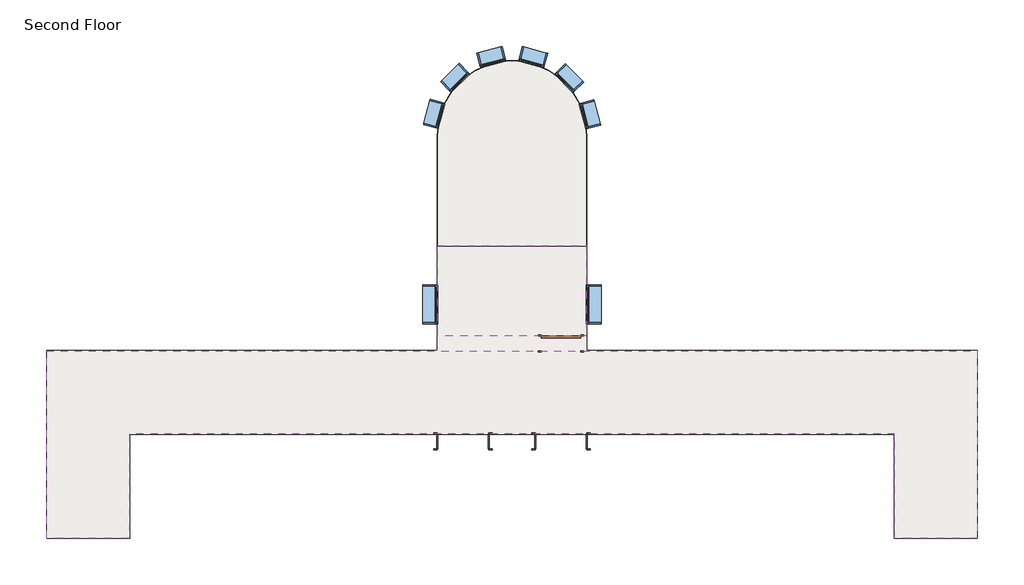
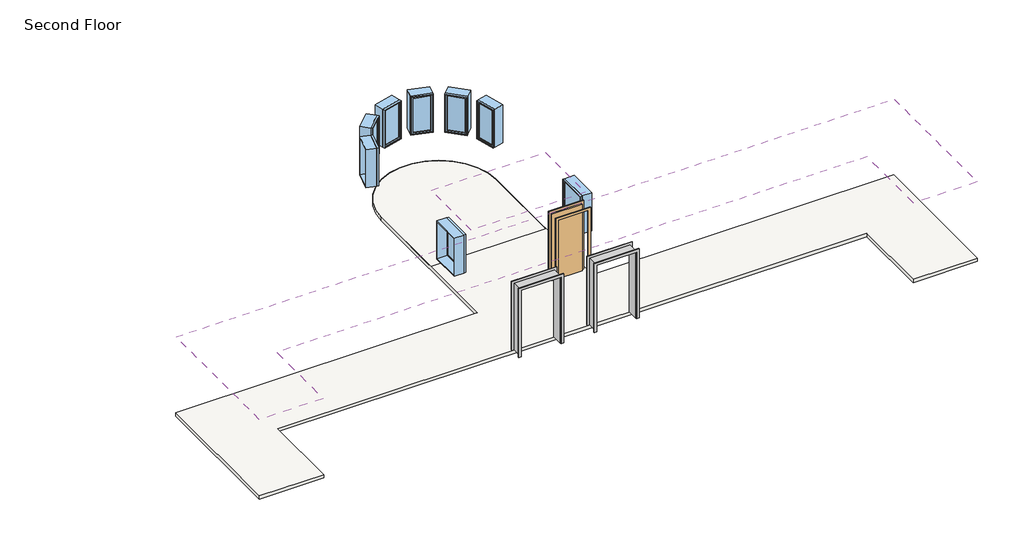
# One storey: 8 windows, 2 coverings, 2 proxies, 2 slabs, 1 door.
"""IFC4 building model written with IfcOpenShell, lengths in millimetres."""

import ifcopenshell
import ifcopenshell.guid

model = None  # the IFC model being written
_history = None  # IfcOwnerHistory: only IFC2X3 demands one
_inside = {}  # id of a spatial element -> (the spatial element, [elements in it])
_under = {}  # id of a project, library or spatial element -> (it, [spatial elements below it])
_declared = {}  # id of a project -> (the project, [libraries it declares])
_typed = {}  # id of a type object -> (the type object, [elements of that type])
_made_of = {}  # id of a material, layer set ... -> (it, [elements and type objects made of it])


def new_model(schema):
    """Start an empty IFC model of exactly this schema.

    Asked for "IFC4X3", IfcOpenShell would pick the latest addendum, in which some entities
    have other attributes; the version numbers below select the first issue.
    IFC2X3 requires an IfcOwnerHistory on every rooted entity: one is made here for all.
    """
    global model, _history
    if schema == "IFC4X3":
        model = ifcopenshell.file(schema_version=(4, 3, 0, 0))
    else:
        model = ifcopenshell.file(schema=schema)
    _inside.clear()
    _under.clear()
    _declared.clear()
    _typed.clear()
    _made_of.clear()
    _history = None
    if model.schema == "IFC2X3":
        org = make("IfcOrganization", Name="unknown")
        user = make(
            "IfcPersonAndOrganization",
            ThePerson=make("IfcPerson", FamilyName="unknown"),
            TheOrganization=org,
        )
        app = make(
            "IfcApplication",
            ApplicationDeveloper=org,
            Version="unknown",
            ApplicationFullName="unknown",
            ApplicationIdentifier="unknown",
        )
        _history = make(
            "IfcOwnerHistory",
            OwningUser=user,
            OwningApplication=app,
            ChangeAction="ADDED",
            CreationDate=0,
        )
    return model


def make(cls, **values):
    """One entity of the class cls with the attributes given. An attribute that is None is left unset."""
    return model.create_entity(
        cls, **{name: value for name, value in values.items() if value is not None}
    )


def rooted(cls, **values):
    """An entity with a GlobalId (a new one), such as an element, a storey or a relation."""
    return make(cls, GlobalId=ifcopenshell.guid.new(), OwnerHistory=_history, **values)


def si_unit(unit_type, name, prefix=None):
    """IfcSIUnit, for example si_unit("LENGTHUNIT", "METRE", prefix="MILLI")."""
    return make("IfcSIUnit", UnitType=unit_type, Prefix=prefix, Name=name)


def assignment(units):
    """IfcUnitAssignment: the units of a project."""
    return None if units is None else make("IfcUnitAssignment", Units=units)


def point(xyz):
    """IfcCartesianPoint."""
    return None if xyz is None else make("IfcCartesianPoint", Coordinates=xyz)


def direction(xyz):
    """IfcDirection."""
    return None if xyz is None else make("IfcDirection", DirectionRatios=xyz)


def frame(location, z_axis=None, x_axis=None):
    """IfcAxis2Placement3D, a coordinate frame: its origin and axes. An axis left out is left unset."""
    return make(
        "IfcAxis2Placement3D",
        Location=point(location),
        Axis=direction(z_axis),
        RefDirection=direction(x_axis),
    )


def frame_2d(location, x_axis=None):
    """IfcAxis2Placement2D, a coordinate frame in the plane: its origin and x axis."""
    return make(
        "IfcAxis2Placement2D", Location=point(location), RefDirection=direction(x_axis)
    )


def origin():
    """The frame at (0, 0, 0) with its axes left unset."""
    return frame((0.0, 0.0, 0.0))


def origin_with_axes():
    """The frame at (0, 0, 0) with the z axis (0, 0, 1) and the x axis (1, 0, 0) written out."""
    return frame((0.0, 0.0, 0.0), z_axis=(0.0, 0.0, 1.0), x_axis=(1.0, 0.0, 0.0))


def place(relative_to, where):
    """IfcLocalPlacement: puts the frame where relative to a parent placement (None: the world)."""
    return make(
        "IfcLocalPlacement", PlacementRelTo=relative_to, RelativePlacement=where
    )


def context(
    kind, dimensions, precision=None, world=None, true_north=None, identifier=None
):
    """IfcGeometricRepresentationContext, for example the 3D "Model" context."""
    return make(
        "IfcGeometricRepresentationContext",
        ContextIdentifier=identifier,
        ContextType=kind,
        CoordinateSpaceDimension=dimensions,
        Precision=precision,
        WorldCoordinateSystem=world,
        TrueNorth=true_north,
    )


def project(units=None, contexts=None):
    """IfcProject with its units and contexts."""
    return rooted(
        "IfcProject",
        Name="project",
        RepresentationContexts=contexts,
        UnitsInContext=assignment(units),
    )


def spatial(cls, under=None, at=None, **own):
    """A site, building, storey or space (cls), placed at a placement, below another one or the project."""
    s = rooted(cls, ObjectPlacement=at, **own)
    if under is not None:
        _under.setdefault(under.id(), (under, []))[1].append(s)
    return s


def polyline(points):
    """IfcPolyline through the points."""
    return make("IfcPolyline", Points=[point(p) for p in points])


def circle_curve(where, radius):
    """IfcCircle in the frame where."""
    return make("IfcCircle", Position=where, Radius=radius)


def trimmed(basis, trim1, trim2, sense, master):
    """IfcTrimmedCurve: the piece of a basis curve between two trims."""
    return make(
        "IfcTrimmedCurve",
        BasisCurve=basis,
        Trim1=trim1,
        Trim2=trim2,
        SenseAgreement=sense,
        MasterRepresentation=master,
    )


def segment(curve, same_sense, transition):
    """IfcCompositeCurveSegment."""
    return make(
        "IfcCompositeCurveSegment",
        Transition=transition,
        SameSense=same_sense,
        ParentCurve=curve,
    )


def composite_curve(segments, self_intersect=None):
    """IfcCompositeCurve: segments joined end to end."""
    return make("IfcCompositeCurve", Segments=segments, SelfIntersect=self_intersect)


def outline(outer, holes=None, kind="AREA"):
    """IfcArbitraryClosedProfileDef: a profile drawn as a closed curve; with holes, ...WithVoids."""
    if holes is None:
        return make("IfcArbitraryClosedProfileDef", ProfileType=kind, OuterCurve=outer)
    return make(
        "IfcArbitraryProfileDefWithVoids",
        ProfileType=kind,
        OuterCurve=outer,
        InnerCurves=holes,
    )


def extrude(swept, where, along, depth):
    """IfcExtrudedAreaSolid: the profile swept, set in the frame where, extruded along a direction by depth."""
    return make(
        "IfcExtrudedAreaSolid",
        SweptArea=swept,
        Position=where,
        ExtrudedDirection=direction(along),
        Depth=depth,
    )


def faces_of(points, faces, orient=None, outer=None):
    """IfcFace entities. A face is a list of loops; a loop is a list of indices into points, from 0.

    orient and outer hold one flag for each loop. By default every Orientation is true, the
    first loop of a face is its IfcFaceOuterBound and the others are IfcFaceBound.
    """
    made = []
    for i, loops in enumerate(faces):
        bounds = []
        for j, loop in enumerate(loops):
            is_outer = j == 0 if outer is None else outer[i][j]
            bounds.append(
                make(
                    "IfcFaceOuterBound" if is_outer else "IfcFaceBound",
                    Bound=make("IfcPolyLoop", Polygon=[points[k] for k in loop]),
                    Orientation=True if orient is None else orient[i][j],
                )
            )
        made.append(make("IfcFace", Bounds=bounds))
    return made


def faceted_brep(points, faces, orient=None, outer=None, voids=None):
    """IfcFacetedBrep: a solid bounded by flat faces; with voids (closed shells), ...WithVoids."""
    shared = [point(p) for p in points]
    hull = make("IfcClosedShell", CfsFaces=faces_of(shared, faces, orient, outer))
    if voids is None:
        return make("IfcFacetedBrep", Outer=hull)
    return make(
        "IfcFacetedBrepWithVoids",
        Outer=hull,
        Voids=[
            make(cls, CfsFaces=faces_of(shared, fs, o, b)) for cls, fs, o, b in voids
        ],
    )


def shape(context_of_items, identifier, shape_type, items):
    """IfcShapeRepresentation: the items that make up one representation, for example the "Body"."""
    return make(
        "IfcShapeRepresentation",
        ContextOfItems=context_of_items,
        RepresentationIdentifier=identifier,
        RepresentationType=shape_type,
        Items=items,
    )


def source(mapping_origin, context_of_items, identifier, shape_type, items):
    """IfcRepresentationMap: a shape defined once, which mapped items show again and again."""
    return make(
        "IfcRepresentationMap",
        MappingOrigin=mapping_origin,
        MappedRepresentation=shape(context_of_items, identifier, shape_type, items),
    )


def transform(
    local_origin,
    x_axis=None,
    y_axis=None,
    z_axis=None,
    scale=None,
    scale2=None,
    scale3=None,
    uniform=True,
):
    """IfcCartesianTransformationOperator3D, or its non-uniform kind. x_axis, y_axis, z_axis: its Axis1, 2, 3."""
    if uniform:
        return make(
            "IfcCartesianTransformationOperator3D",
            Axis1=direction(x_axis),
            Axis2=direction(y_axis),
            LocalOrigin=point(local_origin),
            Scale=scale,
            Axis3=direction(z_axis),
        )
    return make(
        "IfcCartesianTransformationOperator3DnonUniform",
        Axis1=direction(x_axis),
        Axis2=direction(y_axis),
        LocalOrigin=point(local_origin),
        Scale=scale,
        Axis3=direction(z_axis),
        Scale2=scale2,
        Scale3=scale3,
    )


def mapped(mapping_source, mapping_target):
    """IfcMappedItem: shows the shape of a source again, moved by a transform."""
    return make(
        "IfcMappedItem", MappingSource=mapping_source, MappingTarget=mapping_target
    )


def made_of(thing, what):
    """Note that an element or type object is made of a material, layer set ...; save() writes the relation."""
    if what is not None:
        _made_of.setdefault(what.id(), (what, []))[1].append(thing)
    return thing


def element(
    cls,
    number,
    at=None,
    inside=None,
    cuts=None,
    type_object=None,
    material=None,
    context=None,
    identifier="Body",
    shape_type=None,
    held_by="IfcProductDefinitionShape",
    body=None,
    shapes=None,
    **own,
):
    """One element of the class cls, such as IfcWall. Its Tag is "e" and its number.

    at: its placement. inside: the storey or other place that contains it. cuts: it is an
    opening in that element (IfcRelVoidsElement). A single representation is given by context,
    identifier, shape_type and body (its items); several are given by shapes. held_by: the class
    of the entity that holds the representations. save() writes the other relations.
    """
    e = rooted(cls, Tag="e%d" % number, ObjectPlacement=at, **own)
    if body is not None:
        shapes = [shape(context, identifier, shape_type, body)]
    if shapes is not None:
        e.Representation = make(held_by, Representations=shapes)
    if inside is not None:
        _inside.setdefault(inside.id(), (inside, []))[1].append(e)
    if cuts is not None:
        rooted(
            "IfcRelVoidsElement", RelatingBuildingElement=cuts, RelatedOpeningElement=e
        )
    if type_object is not None:
        _typed.setdefault(type_object.id(), (type_object, []))[1].append(e)
    return made_of(e, material)


def aggregate(whole, parts):
    """IfcRelAggregates: a whole, such as a stair, and the parts it consists of."""
    return rooted("IfcRelAggregates", RelatingObject=whole, RelatedObjects=parts)


def save(model, path):
    """Write the relations noted so far, then the file.

    IfcRelAggregates (storeys below a building ...), IfcRelContainedInSpatialStructure (elements
    in a storey), IfcRelDefinesByType, IfcRelAssociatesMaterial and IfcRelDeclares: one each for
    every whole, place, type object, material and project.
    """
    for whole, parts in _under.values():
        aggregate(whole, parts)
    for where, things in _inside.values():
        rooted(
            "IfcRelContainedInSpatialStructure",
            RelatedElements=things,
            RelatingStructure=where,
        )
    for kind, things in _typed.values():
        rooted("IfcRelDefinesByType", RelatedObjects=things, RelatingType=kind)
    for what, things in _made_of.values():
        rooted("IfcRelAssociatesMaterial", RelatedObjects=things, RelatingMaterial=what)
    for by, libraries in _declared.values():
        rooted("IfcRelDeclares", RelatingContext=by, RelatedDefinitions=libraries)
    model.write(path)


def proxy_c3589814(model_context):
    return source(origin(), model_context, "Body", "SolidModel", [
        extrude(outline(polyline([(0.0, -611.4386567), (2127.25, -611.4386567), (2127.25, 595.0613433), (0.0, 595.0613433), (0.0, 671.2613433), (2203.45, 671.2613433), (2203.45, -687.6386567), (0.0, -687.6386567), (0.0, -611.4386567)])), frame((0.0, -195.2625, 0.0), z_axis=(0.0, 1.0, 0.0), x_axis=(0.0, 0.0, 1.0)), (0.0, 0.0, 1.0), 19.05),
        extrude(outline(polyline([(0.0, 671.2613433), (2209.8, 671.2613433), (2209.8, -687.6386567), (0.0, -687.6386567), (0.0, -611.4386567), (2127.25, -611.4386567), (2127.25, 595.0613433), (0.0, 595.0613433), (0.0, 671.2613433)])), frame((0.0, 176.2125, 0.0), z_axis=(0.0, 1.0, 0.0), x_axis=(0.0, 0.0, 1.0)), (0.0, 0.0, 1.0), 19.05),
        faceted_brep([(582.3613433, 176.2125, 0.0), (601.4113433, 176.2125, 0.0), (601.4113433, -176.2125, 0.0), (582.3613433, -176.2125, 0.0), (582.3613433, 176.2125, 2114.55), (601.4113433, 176.2125, 2133.6), (601.4113433, -176.2125, 2133.6), (582.3613433, -176.2125, 2114.55), (-598.7386567, 176.2125, 2114.55), (-617.7886567, 176.2125, 2133.6), (-617.7886567, -176.2125, 2133.6), (-598.7386567, -176.2125, 2114.55), (-598.7386567, 176.2125, 0.0), (-598.7386567, -176.2125, 0.0), (-617.7886567, -176.2125, 0.0), (-617.7886567, 176.2125, 0.0)], [[[0, 1, 2, 3]], [[1, 0, 4, 5]], [[2, 1, 5, 6]], [[3, 2, 6, 7]], [[0, 3, 7, 4]], [[5, 4, 8, 9]], [[6, 5, 9, 10]], [[7, 6, 10, 11]], [[4, 7, 11, 8]], [[12, 13, 14, 15]], [[9, 8, 12, 15]], [[10, 9, 15, 14]], [[11, 10, 14, 13]], [[8, 11, 13, 12]]]),
    ])


def door_632be17d(model_context):
    return source(origin(), model_context, "Body", "SweptSolid", [
        extrude(outline(polyline([(2209.8, -533.4), (0.0, -533.4), (0.0, -457.2), (2133.6, -457.2), (2133.6, 457.2), (0.0, 457.2), (0.0, 533.4), (2209.8, 533.4), (2209.8, -533.4)])), frame((0.0, 176.2125, 0.0), z_axis=(0.0, 1.0, 0.0), x_axis=(0.0, 0.0, 1.0)), (0.0, 0.0, 1.0), 25.4),
        extrude(outline(polyline([(2209.8, 533.4), (2209.8, -533.4), (0.0, -533.4), (0.0, -457.2), (2133.6, -457.2), (2133.6, 457.2), (0.0, 457.2), (0.0, 533.4), (2209.8, 533.4)])), frame((0.0, -201.6125, 0.0), z_axis=(0.0, 1.0, 0.0), x_axis=(0.0, 0.0, 1.0)), (0.0, 0.0, 1.0), 25.4),
        extrude(outline(polyline([(457.2, 125.4125), (-457.2, 125.4125), (-457.2, 176.2125), (457.2, 176.2125), (457.2, 125.4125)])), origin_with_axes(), (0.0, 0.0, 1.0), 2133.6),
    ])


def window_60baf983(model_context):
    return source(origin(), model_context, "Body", "SweptSolid", [
        extrude(outline(polyline([(203.2, 128.5875), (-279.4, 128.5875), (-279.4, 141.2875), (203.2, 141.2875), (203.2, 128.5875)])), frame((0.0, 0.0, 977.9), z_axis=(0.0, 0.0, 1.0), x_axis=(1.0, 0.0, 0.0)), (0.0, 0.0, 1.0), 1092.2),
        extrude(outline(polyline([(2114.55, -323.85), (933.45, -323.85), (933.45, 247.65), (2114.55, 247.65), (2114.55, -323.85)]), holes=[polyline([(2070.1, -279.4), (2070.1, 203.2), (977.9, 203.2), (977.9, -279.4), (2070.1, -279.4)])]), frame((0.0, 112.7125, 0.0), z_axis=(0.0, 1.0, 0.0), x_axis=(0.0, 0.0, 1.0)), (0.0, 0.0, 1.0), 44.45),
        extrude(outline(polyline([(2133.6, -342.9), (914.4, -342.9), (914.4, 266.7), (2133.6, 266.7), (2133.6, -342.9)]), holes=[polyline([(2101.85, -311.15), (2101.85, 234.95), (946.15, 234.95), (946.15, -311.15), (2101.85, -311.15)])]), frame((0.0, -176.2125, 0.0), z_axis=(0.0, 1.0, 0.0), x_axis=(0.0, 0.0, 1.0)), (0.0, 0.0, 1.0), 288.925),
        extrude(outline(polyline([(2133.6, 266.7), (2133.6, -342.9), (914.4, -342.9), (914.4, 266.7), (2133.6, 266.7)]), holes=[polyline([(2114.55, 247.65), (933.45, 247.65), (933.45, -323.85), (2114.55, -323.85), (2114.55, 247.65)])]), frame((0.0, 112.7125, 0.0), z_axis=(0.0, 1.0, 0.0), x_axis=(0.0, 0.0, 1.0)), (0.0, 0.0, 1.0), 63.5),
    ])


def window_15c49d37(model_context):
    return source(origin(), model_context, "Body", "SweptSolid", [
        extrude(outline(polyline([(355.6, 128.5875), (-431.8, 128.5875), (-431.8, 141.2875), (355.6, 141.2875), (355.6, 128.5875)])), frame((0.0, 0.0, 977.9), z_axis=(0.0, 0.0, 1.0), x_axis=(1.0, 0.0, 0.0)), (0.0, 0.0, 1.0), 1092.2),
        extrude(outline(polyline([(2114.55, -476.25), (933.45, -476.25), (933.45, 400.05), (2114.55, 400.05), (2114.55, -476.25)]), holes=[polyline([(2070.1, -431.8), (2070.1, 355.6), (977.9, 355.6), (977.9, -431.8), (2070.1, -431.8)])]), frame((0.0, 112.7125, 0.0), z_axis=(0.0, 1.0, 0.0), x_axis=(0.0, 0.0, 1.0)), (0.0, 0.0, 1.0), 44.45),
        extrude(outline(polyline([(2133.6, -495.3), (914.4, -495.3), (914.4, 419.1), (2133.6, 419.1), (2133.6, -495.3)]), holes=[polyline([(2101.85, -463.55), (2101.85, 387.35), (946.15, 387.35), (946.15, -463.55), (2101.85, -463.55)])]), frame((0.0, -176.2125, 0.0), z_axis=(0.0, 1.0, 0.0), x_axis=(0.0, 0.0, 1.0)), (0.0, 0.0, 1.0), 288.925),
        extrude(outline(polyline([(2133.6, 419.1), (2133.6, -495.3), (914.4, -495.3), (914.4, 419.1), (2133.6, 419.1)]), holes=[polyline([(2114.55, 400.05), (933.45, 400.05), (933.45, -476.25), (2114.55, -476.25), (2114.55, 400.05)])]), frame((0.0, 112.7125, 0.0), z_axis=(0.0, 1.0, 0.0), x_axis=(0.0, 0.0, 1.0)), (0.0, 0.0, 1.0), 63.5),
    ])


model = new_model("IFC4")

# Units and contexts
model_context = context("Model", 3, world=origin())
ifc_project = project(units=[si_unit("LENGTHUNIT", "METRE", prefix="MILLI")], contexts=[model_context])

# Site, building, storey
site = spatial("IfcSite", under=ifc_project)
building = spatial("IfcBuilding", under=site)
storey = spatial("IfcBuildingStorey", under=building, Name="Second Floor", Elevation=3048.0)

# Proxies
placement = place(None, origin())
proxy_shape = proxy_c3589814(model_context)
element("IfcBuildingElementProxy", 1, Name="Opening-Cased : 48\" x 84\"", ObjectType="Opening-Cased : 48\" x 84\"", at=placement, inside=storey, context=model_context, shape_type="MappedRepresentation", body=[
    mapped(proxy_shape, transform((-7396.8036255, 2429.9758812, 3048.0), x_axis=(-1.0, 0.0, 0.0), y_axis=(0.0, -1.0, 0.0), z_axis=(0.0, 0.0, 1.0))),
])
element("IfcBuildingElementProxy", 2, Name="Opening-Cased : 48\" x 84\"", ObjectType="Opening-Cased : 48\" x 84\"", at=placement, inside=storey, context=model_context, shape_type="MappedRepresentation", body=[
    mapped(proxy_shape, transform((-5110.8036255, 2429.9758812, 3048.0), x_axis=(-1.0, 0.0, 0.0), y_axis=(0.0, -1.0, 0.0), z_axis=(0.0, 0.0, 1.0))),
])

# Coverings
element("IfcCovering", 3, ObjectType="GWB on Mtl. Stud", at=placement, inside=storey, context=model_context, shape_type="SweptSolid", body=[
    extrude(outline(polyline([(-4516.8274687, 4892.1883812), (-7974.4024687, 4892.1883812), (-7974.4024687, 7001.9758812), (-4516.8274687, 7001.9758812), (-4516.8274687, 4892.1883812)])), frame((0.0, 0.0, 5486.4), z_axis=(0.0, 0.0, 1.0), x_axis=(1.0, 0.0, 0.0)), (0.0, 0.0, 1.0), 107.95),
])
element("IfcCovering", 4, ObjectType="GWB on Mtl. Stud", at=placement, inside=storey, context=model_context, shape_type="SweptSolid", body=[
    extrude(outline(polyline([(2693.5975313, 167.7883812), (2693.5975313, 2606.1883812), (-15184.8274687, 2606.1883812), (-15184.8274687, 167.7883812), (-17118.4024687, 167.7883812), (-17118.4024687, 4539.7633812), (4627.1725313, 4539.7633812), (4627.1725313, 167.7883812), (2693.5975313, 167.7883812)])), frame((0.0, 0.0, 5486.4), z_axis=(0.0, 0.0, 1.0), x_axis=(1.0, 0.0, 0.0)), (0.0, 0.0, 1.0), 107.95),
])

# Door
door_shape = door_632be17d(model_context)
element("IfcDoor", 5, ObjectType="Single-Flush : 36\" x 84\"", at=placement, inside=storey, context=model_context, shape_type="MappedRepresentation", body=[
    mapped(door_shape, transform((-5102.6149687, 4715.9758812, 3048.0), x_axis=(1.0, 0.0, 0.0), y_axis=(0.0, 1.0, 0.0), z_axis=(0.0, 0.0, 1.0))),
])

# Slabs
element("IfcSlab", 6, ObjectType="LW Concrete on Metal Deck", at=placement, inside=storey, context=model_context, shape_type="SweptSolid", body=[
    extrude(outline(composite_curve([segment(polyline([(-4504.1274687, 9592.7758812), (-4504.1274687, 4552.4633812), (4627.1725313, 4552.4633812), (4627.1725313, 167.7883812), (2680.8975313, 167.7883812), (2680.8975313, 2593.4883812), (-15172.1274687, 2593.4883812), (-15172.1274687, 167.7883812), (-17118.4024687, 167.7883812), (-17118.4024687, 4552.4633812), (-7987.1024687, 4552.4633812), (-7987.1024687, 9592.7758812)]), True, "CONTINUOUS"), segment(trimmed(circle_curve(frame_2d((-6245.6149687, 9592.7758812)), 1741.4875), [point((-7987.1024687, 9592.7758812))], [point((-4504.1274687, 9592.7758812))], False, "CARTESIAN"), True, "CONTINUOUS")], self_intersect=False), holes=[composite_curve([segment(polyline([(-7974.4024687, 7001.9758812), (-4516.8274687, 7001.9758812), (-4516.8274687, 9592.7758812)]), True, "CONTINUOUS"), segment(trimmed(circle_curve(frame_2d((-6245.6149687, 9592.7758812)), 1728.7875), [point((-4516.8274687, 9592.7758812))], [point((-7974.4024687, 9592.7758812))], True, "CARTESIAN"), True, "CONTINUOUS"), segment(polyline([(-7974.4024687, 9592.7758812), (-7974.4024687, 7001.9758812)]), True, "CONTINUOUS")], self_intersect=False)]), frame((0.0, 0.0, 2943.225), z_axis=(0.0, 0.0, 1.0), x_axis=(1.0, 0.0, 0.0)), (0.0, 0.0, 1.0), 104.775),
])
element("IfcSlab", 7, ObjectType="LW Concrete on Metal Deck", at=placement, inside=storey, context=model_context, shape_type="SweptSolid", body=[
    extrude(outline(composite_curve([segment(polyline([(-4504.1274687, 9592.7758812), (-4504.1274687, 4552.4633812), (4627.1725313, 4552.4633812), (4627.1725313, 167.7883812), (2680.8975313, 167.7883812), (2680.8975313, 2593.4883812), (-15172.1274687, 2593.4883812), (-15172.1274687, 167.7883812), (-17118.4024687, 167.7883812), (-17118.4024687, 4552.4633812), (-7987.1024687, 4552.4633812), (-7987.1024687, 9592.7758812)]), True, "CONTINUOUS"), segment(trimmed(circle_curve(frame_2d((-6245.6149687, 9592.7758812)), 1741.4875), [point((-7987.1024687, 9592.7758812))], [point((-4504.1274687, 9592.7758812))], False, "CARTESIAN"), True, "CONTINUOUS")], self_intersect=False)), frame((0.0, 0.0, 2943.225), z_axis=(0.0, 0.0, 1.0), x_axis=(1.0, 0.0, 0.0)), (0.0, 0.0, 1.0), 104.775),
])

# Windows
window_shape = window_60baf983(model_context)
element("IfcWindow", 8, ObjectType="Fixed : 24\" x 48\"", at=placement, inside=storey, context=model_context, shape_type="MappedRepresentation", body=[
    mapped(window_shape, transform((-8072.5076754, 10048.7859441, 3048.0), x_axis=(-0.2617614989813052, -0.9651325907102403, 0.0), y_axis=(0.9651325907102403, -0.2617614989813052, 0.0), z_axis=(0.0, 0.0, 1.0))),
])
element("IfcWindow", 9, ObjectType="Fixed : 24\" x 48\"", at=placement, inside=storey, context=model_context, shape_type="MappedRepresentation", body=[
    mapped(window_shape, transform((-7599.7454312, 10901.1385333, 3048.0), x_axis=(-0.7092584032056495, -0.7049485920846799, 0.0), y_axis=(0.7049485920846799, -0.7092584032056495, 0.0), z_axis=(0.0, 0.0, 1.0))),
])
element("IfcWindow", 10, ObjectType="Fixed : 24\" x 48\"", at=placement, inside=storey, context=model_context, shape_type="MappedRepresentation", body=[
    mapped(window_shape, transform((-6764.1450232, 11402.9164066, 3048.0), x_axis=(-0.96671009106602, -0.25587418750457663, 0.0), y_axis=(0.25587418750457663, -0.96671009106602, 0.0), z_axis=(0.0, 0.0, 1.0))),
])
element("IfcWindow", 11, ObjectType="Fixed : 24\" x 48\"", at=placement, inside=storey, context=model_context, shape_type="MappedRepresentation", body=[
    mapped(window_shape, transform((-5789.6049059, 11419.6685878, 3048.0), x_axis=(-0.9651325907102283, 0.2617614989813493, 0.0), y_axis=(-0.2617614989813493, -0.9651325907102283, 0.0), z_axis=(0.0, 0.0, 1.0))),
])
element("IfcWindow", 12, ObjectType="Fixed : 24\" x 48\"", at=placement, inside=storey, context=model_context, shape_type="MappedRepresentation", body=[
    mapped(window_shape, transform((-4937.2523166, 10946.9063437, 3048.0), x_axis=(-0.7049485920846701, 0.7092584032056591, 0.0), y_axis=(-0.7092584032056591, -0.7049485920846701, 0.0), z_axis=(0.0, 0.0, 1.0))),
])
element("IfcWindow", 13, ObjectType="Fixed : 24\" x 48\"", at=placement, inside=storey, context=model_context, shape_type="MappedRepresentation", body=[
    mapped(window_shape, transform((-4435.4744434, 10111.3059357, 3048.0), x_axis=(-0.25587418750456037, 0.9667100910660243, 0.0), y_axis=(-0.9667100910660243, -0.25587418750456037, 0.0), z_axis=(0.0, 0.0, 1.0))),
])
window_2_shape = window_15c49d37(model_context)
element("IfcWindow", 14, ObjectType="Fixed : 36\" x 48\"", at=placement, inside=storey, context=model_context, shape_type="MappedRepresentation", body=[
    mapped(window_2_shape, transform((-8150.6149687, 5592.2758812, 3048.0), x_axis=(0.0, -1.0, 0.0), y_axis=(1.0, 0.0, 0.0), z_axis=(0.0, 0.0, 1.0))),
])
element("IfcWindow", 15, ObjectType="Fixed : 36\" x 48\"", at=placement, inside=storey, context=model_context, shape_type="MappedRepresentation", body=[
    mapped(window_2_shape, transform((-4340.6149687, 5668.4758812, 3048.0), x_axis=(0.0, 1.0, 0.0), y_axis=(-1.0, 0.0, 0.0), z_axis=(0.0, 0.0, 1.0))),
])

save(model, "model.ifc")
